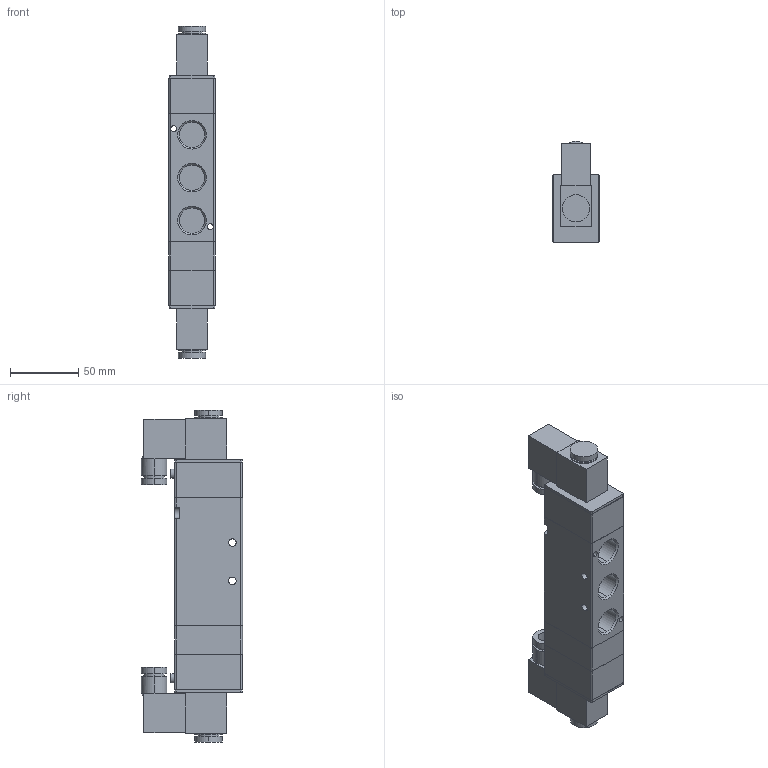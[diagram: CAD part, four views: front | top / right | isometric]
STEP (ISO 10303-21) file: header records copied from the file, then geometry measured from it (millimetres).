
FILE_DESCRIPTION (( 'STEP AP203' ), '1' );
FILE_NAME ('VB5-F04.STEP', '2020-04-15T17:03:19', ( '' ), ( '' ), 'SwSTEP 2.0', 'SolidWorks 2019', '' );
FILE_SCHEMA (( 'CONFIG_CONTROL_DESIGN' ));
Length unit declared in the file: millimetre
Products named in the file (1): VB5-F04
Bounding box: 34 x 74.3 x 243.8 mm (x, y, z)
Volume: 351634.2 mm3; surface area: 56569 mm2
Topology: 1 solids, 1 shells, 168 faces, 400 edges, 262 vertices
Faces by surface type: cylinder 78, plane 78, cone 12
Entity records: 5106 total; most frequent: CARTESIAN_POINT 946, DIRECTION 906, ORIENTED_EDGE 800, EDGE_CURVE 400, AXIS2_PLACEMENT_3D 339, VERTEX_POINT 262, LINE 228, VECTOR 228
